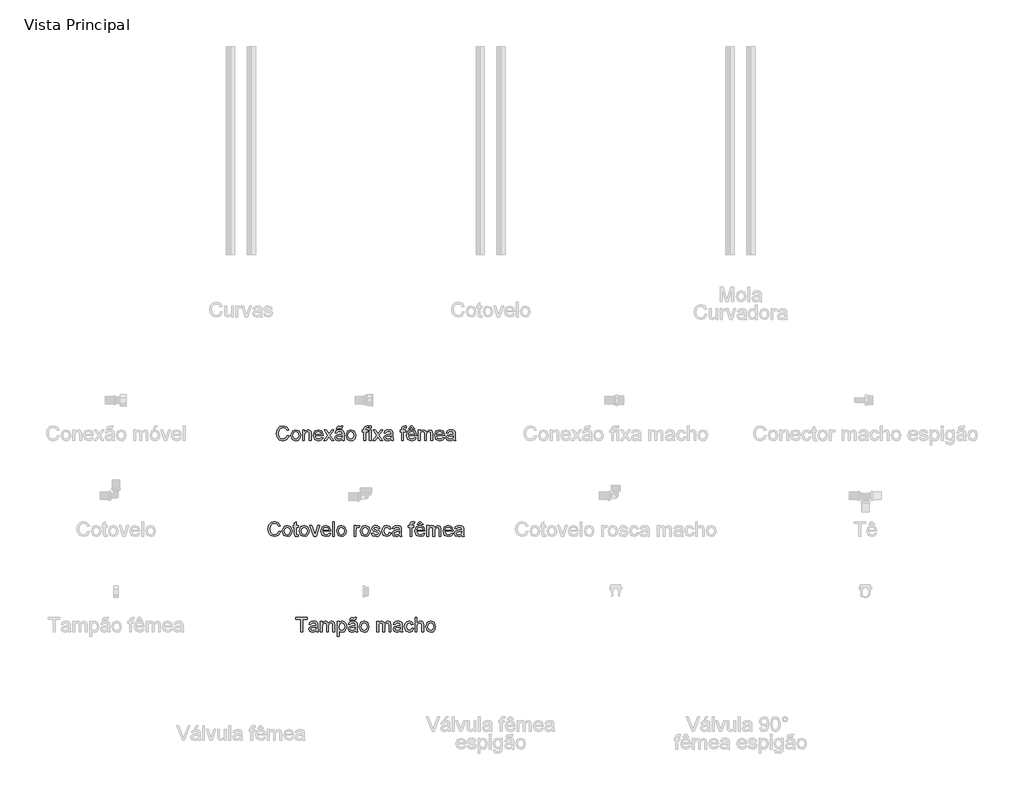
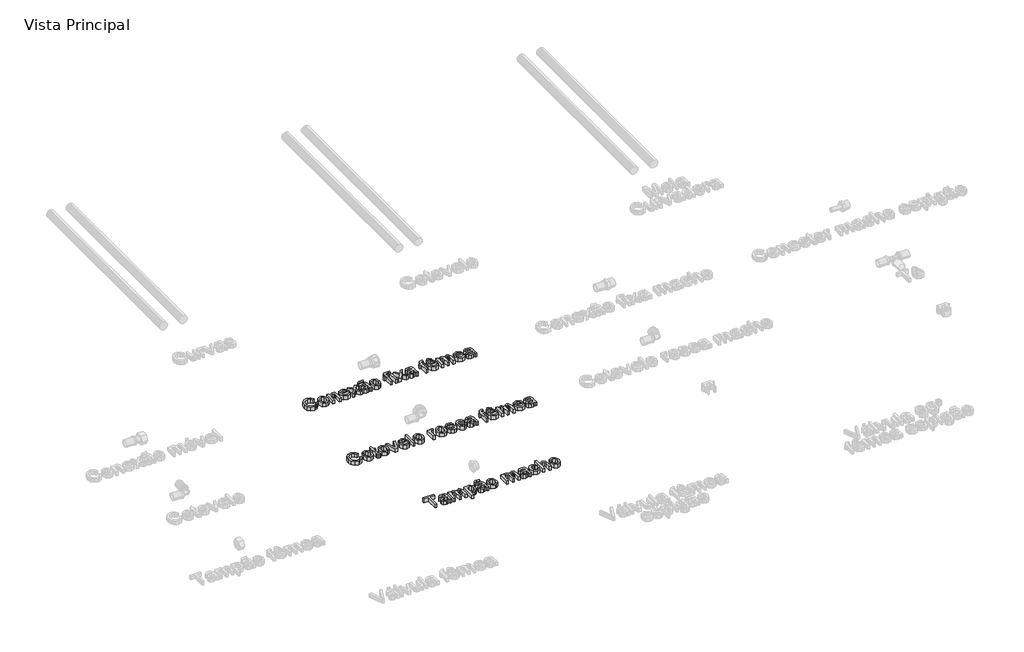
# One storey, part 2 of 5: 3 proxies.
"""IFC4 building model written with IfcOpenShell, lengths in millimetres."""

import ifcopenshell
import ifcopenshell.guid

model = None  # the IFC model being written
_history = None  # IfcOwnerHistory: only IFC2X3 demands one
_inside = {}  # id of a spatial element -> (the spatial element, [elements in it])
_under = {}  # id of a project, library or spatial element -> (it, [spatial elements below it])
_declared = {}  # id of a project -> (the project, [libraries it declares])
_typed = {}  # id of a type object -> (the type object, [elements of that type])
_made_of = {}  # id of a material, layer set ... -> (it, [elements and type objects made of it])


def new_model(schema):
    """Start an empty IFC model of exactly this schema.

    Asked for "IFC4X3", IfcOpenShell would pick the latest addendum, in which some entities
    have other attributes; the version numbers below select the first issue.
    IFC2X3 requires an IfcOwnerHistory on every rooted entity: one is made here for all.
    """
    global model, _history
    if schema == "IFC4X3":
        model = ifcopenshell.file(schema_version=(4, 3, 0, 0))
    else:
        model = ifcopenshell.file(schema=schema)
    _inside.clear()
    _under.clear()
    _declared.clear()
    _typed.clear()
    _made_of.clear()
    _history = None
    if model.schema == "IFC2X3":
        org = make("IfcOrganization", Name="unknown")
        user = make(
            "IfcPersonAndOrganization",
            ThePerson=make("IfcPerson", FamilyName="unknown"),
            TheOrganization=org,
        )
        app = make(
            "IfcApplication",
            ApplicationDeveloper=org,
            Version="unknown",
            ApplicationFullName="unknown",
            ApplicationIdentifier="unknown",
        )
        _history = make(
            "IfcOwnerHistory",
            OwningUser=user,
            OwningApplication=app,
            ChangeAction="ADDED",
            CreationDate=0,
        )
    return model


def make(cls, **values):
    """One entity of the class cls with the attributes given. An attribute that is None is left unset."""
    return model.create_entity(
        cls, **{name: value for name, value in values.items() if value is not None}
    )


def rooted(cls, **values):
    """An entity with a GlobalId (a new one), such as an element, a storey or a relation."""
    return make(cls, GlobalId=ifcopenshell.guid.new(), OwnerHistory=_history, **values)


def si_unit(unit_type, name, prefix=None):
    """IfcSIUnit, for example si_unit("LENGTHUNIT", "METRE", prefix="MILLI")."""
    return make("IfcSIUnit", UnitType=unit_type, Prefix=prefix, Name=name)


def assignment(units):
    """IfcUnitAssignment: the units of a project."""
    return None if units is None else make("IfcUnitAssignment", Units=units)


def point(xyz):
    """IfcCartesianPoint."""
    return None if xyz is None else make("IfcCartesianPoint", Coordinates=xyz)


def direction(xyz):
    """IfcDirection."""
    return None if xyz is None else make("IfcDirection", DirectionRatios=xyz)


def frame(location, z_axis=None, x_axis=None):
    """IfcAxis2Placement3D, a coordinate frame: its origin and axes. An axis left out is left unset."""
    return make(
        "IfcAxis2Placement3D",
        Location=point(location),
        Axis=direction(z_axis),
        RefDirection=direction(x_axis),
    )


def origin():
    """The frame at (0, 0, 0) with its axes left unset."""
    return frame((0.0, 0.0, 0.0))


def origin_with_axes():
    """The frame at (0, 0, 0) with the z axis (0, 0, 1) and the x axis (1, 0, 0) written out."""
    return frame((0.0, 0.0, 0.0), z_axis=(0.0, 0.0, 1.0), x_axis=(1.0, 0.0, 0.0))


def place(relative_to, where):
    """IfcLocalPlacement: puts the frame where relative to a parent placement (None: the world)."""
    return make(
        "IfcLocalPlacement", PlacementRelTo=relative_to, RelativePlacement=where
    )


def context(
    kind, dimensions, precision=None, world=None, true_north=None, identifier=None
):
    """IfcGeometricRepresentationContext, for example the 3D "Model" context."""
    return make(
        "IfcGeometricRepresentationContext",
        ContextIdentifier=identifier,
        ContextType=kind,
        CoordinateSpaceDimension=dimensions,
        Precision=precision,
        WorldCoordinateSystem=world,
        TrueNorth=true_north,
    )


def project(units=None, contexts=None):
    """IfcProject with its units and contexts."""
    return rooted(
        "IfcProject",
        Name="project",
        RepresentationContexts=contexts,
        UnitsInContext=assignment(units),
    )


def spatial(cls, under=None, at=None, **own):
    """A site, building, storey or space (cls), placed at a placement, below another one or the project."""
    s = rooted(cls, ObjectPlacement=at, **own)
    if under is not None:
        _under.setdefault(under.id(), (under, []))[1].append(s)
    return s


def polyline(points):
    """IfcPolyline through the points."""
    return make("IfcPolyline", Points=[point(p) for p in points])


def outline(outer, holes=None, kind="AREA"):
    """IfcArbitraryClosedProfileDef: a profile drawn as a closed curve; with holes, ...WithVoids."""
    if holes is None:
        return make("IfcArbitraryClosedProfileDef", ProfileType=kind, OuterCurve=outer)
    return make(
        "IfcArbitraryProfileDefWithVoids",
        ProfileType=kind,
        OuterCurve=outer,
        InnerCurves=holes,
    )


def extrude(swept, where, along, depth):
    """IfcExtrudedAreaSolid: the profile swept, set in the frame where, extruded along a direction by depth."""
    return make(
        "IfcExtrudedAreaSolid",
        SweptArea=swept,
        Position=where,
        ExtrudedDirection=direction(along),
        Depth=depth,
    )


def shape(context_of_items, identifier, shape_type, items):
    """IfcShapeRepresentation: the items that make up one representation, for example the "Body"."""
    return make(
        "IfcShapeRepresentation",
        ContextOfItems=context_of_items,
        RepresentationIdentifier=identifier,
        RepresentationType=shape_type,
        Items=items,
    )


def made_of(thing, what):
    """Note that an element or type object is made of a material, layer set ...; save() writes the relation."""
    if what is not None:
        _made_of.setdefault(what.id(), (what, []))[1].append(thing)
    return thing


def element(
    cls,
    number,
    at=None,
    inside=None,
    cuts=None,
    type_object=None,
    material=None,
    context=None,
    identifier="Body",
    shape_type=None,
    held_by="IfcProductDefinitionShape",
    body=None,
    shapes=None,
    **own,
):
    """One element of the class cls, such as IfcWall. Its Tag is "e" and its number.

    at: its placement. inside: the storey or other place that contains it. cuts: it is an
    opening in that element (IfcRelVoidsElement). A single representation is given by context,
    identifier, shape_type and body (its items); several are given by shapes. held_by: the class
    of the entity that holds the representations. save() writes the other relations.
    """
    e = rooted(cls, Tag="e%d" % number, ObjectPlacement=at, **own)
    if body is not None:
        shapes = [shape(context, identifier, shape_type, body)]
    if shapes is not None:
        e.Representation = make(held_by, Representations=shapes)
    if inside is not None:
        _inside.setdefault(inside.id(), (inside, []))[1].append(e)
    if cuts is not None:
        rooted(
            "IfcRelVoidsElement", RelatingBuildingElement=cuts, RelatedOpeningElement=e
        )
    if type_object is not None:
        _typed.setdefault(type_object.id(), (type_object, []))[1].append(e)
    return made_of(e, material)


def aggregate(whole, parts):
    """IfcRelAggregates: a whole, such as a stair, and the parts it consists of."""
    return rooted("IfcRelAggregates", RelatingObject=whole, RelatedObjects=parts)


def save(model, path):
    """Write the relations noted so far, then the file.

    IfcRelAggregates (storeys below a building ...), IfcRelContainedInSpatialStructure (elements
    in a storey), IfcRelDefinesByType, IfcRelAssociatesMaterial and IfcRelDeclares: one each for
    every whole, place, type object, material and project.
    """
    for whole, parts in _under.values():
        aggregate(whole, parts)
    for where, things in _inside.values():
        rooted(
            "IfcRelContainedInSpatialStructure",
            RelatedElements=things,
            RelatingStructure=where,
        )
    for kind, things in _typed.values():
        rooted("IfcRelDefinesByType", RelatedObjects=things, RelatingType=kind)
    for what, things in _made_of.values():
        rooted("IfcRelAssociatesMaterial", RelatedObjects=things, RelatingMaterial=what)
    for by, libraries in _declared.values():
        rooted("IfcRelDeclares", RelatingContext=by, RelatedDefinitions=libraries)
    model.write(path)


model = new_model("IFC4")

# Units and contexts
model_context = context("Model", 3, world=origin())
ifc_project = project(units=[si_unit("LENGTHUNIT", "METRE", prefix="MILLI")], contexts=[model_context])

# Site, building, storey
site = spatial("IfcSite", under=ifc_project)
building = spatial("IfcBuilding", under=site)
storey = spatial("IfcBuildingStorey", under=building, Name="Vista Principal", Elevation=0.0)

# Proxies
placement = place(None, origin())
element("IfcBuildingElementProxy", 1, Name="Texto", ObjectType="Texto", at=placement, inside=storey, context=model_context, shape_type="SweptSolid", body=[
    extrude(outline(polyline([(-680.3568001, -120.9709901), (-675.9618365, -122.1040666), (-681.1722718, -130.966957), (-690.3742268, -134.0185382), (-699.5203864, -131.7094655), (-704.8853321, -125.0225971), (-706.7265815, -115.6232122), (-704.6449825, -106.0693168), (-698.7263744, -99.8760234), (-690.2798038, -97.7600888), (-681.4770008, -100.4983571), (-676.511207, -108.2067111), (-680.9061705, -109.2539486), (-684.5114141, -103.8503752), (-690.451482, -102.1550523), (-697.3271965, -104.0349293), (-701.2114173, -109.0822703), (-702.3316179, -115.6146283), (-701.0054033, -123.1856397), (-696.8765411, -128.0226748), (-690.8120064, -129.6235746), (-684.0865104, -127.4432607), (-680.3568001, -120.9709901)])), origin_with_axes(), (0.0, 0.0, 1.0), 10.0),
    extrude(outline(polyline([(-671.5668729, -120.5589623), (-667.7641994, -109.9578294), (-660.0215097, -107.0993863), (-651.7165736, -110.5801632), (-648.4933142, -120.1984379), (-649.9182438, -128.0183829), (-654.0685658, -132.4433901), (-660.0215097, -134.0185382), (-668.3779492, -130.5506373), (-671.5668729, -120.5589623)]), holes=[polyline([(-667.1719094, -120.5503784), (-665.1375219, -127.3617135), (-660.0215097, -129.6235746), (-654.9226652, -127.3488376), (-652.8882778, -120.4130357), (-654.9355411, -113.756211), (-660.0215097, -111.4943499), (-665.1375219, -113.7476271), (-667.1719094, -120.5503784)])]), origin_with_axes(), (0.0, 0.0, 1.0), 10.0),
    extrude(outline(polyline([(-643.5489802, -133.4691678), (-643.5489802, -107.6487568), (-639.1540166, -107.6487568), (-639.1540166, -111.2540003), (-631.205313, -107.0993863), (-627.0549909, -107.9363179), (-624.2222996, -110.1337997), (-622.9046689, -113.365643), (-622.6729032, -117.61468), (-622.6729032, -133.4691678), (-627.0678668, -133.4691678), (-627.0678668, -118.20697), (-627.5743177, -114.3184574), (-629.3640636, -112.2626101), (-632.3813091, -111.4943499), (-637.1496729, -113.2197165), (-639.1540166, -119.7692423), (-639.1540166, -133.4691678), (-643.5489802, -133.4691678)])), origin_with_axes(), (0.0, 0.0, 1.0), 10.0),
    extrude(outline(polyline([(-598.5521071, -125.7779815), (-594.2429827, -126.327352), (-598.2731299, -132.0013186), (-605.779762, -134.0185382), (-614.9044618, -130.5377614), (-618.2779397, -120.7735601), (-614.8701261, -110.6874621), (-606.0286955, -107.0993863), (-597.4404903, -110.6788782), (-594.10564, -120.7478084), (-613.8829761, -121.9323884), (-611.3550137, -127.6406907), (-605.6939229, -129.6235746), (-601.3847985, -128.7050959), (-598.5521071, -125.7779815)]), holes=[polyline([(-613.8829761, -117.5374248), (-598.5006036, -117.5374248), (-600.2603058, -113.5544891), (-606.0458633, -111.4943499), (-611.4580206, -113.1381693), (-613.8829761, -117.5374248)])]), origin_with_axes(), (0.0, 0.0, 1.0), 10.0),
    extrude(outline(polyline([(-592.4575287, -133.4691678), (-583.0667276, -120.490291), (-591.9081583, -107.6487568), (-586.6204677, -107.6487568), (-582.3542628, -113.8291743), (-580.362795, -116.7477048), (-578.6374284, -114.3613769), (-573.7789335, -107.6487568), (-568.491243, -107.6487568), (-577.7790371, -120.490291), (-568.8345995, -133.4691678), (-574.1222901, -133.4691678), (-579.5044037, -125.6663906), (-580.4915537, -124.241461), (-587.1698382, -133.4691678), (-592.4575287, -133.4691678)])), origin_with_axes(), (0.0, 0.0, 1.0), 10.0),
    extrude(outline(polyline([(-548.507893, -130.1729451), (-552.7698059, -133.151563), (-557.4780823, -134.0185382), (-563.8602218, -131.9326473), (-566.0877473, -126.6020372), (-565.2465238, -123.1255523), (-563.0361661, -120.6018818), (-559.9588333, -119.1597844), (-556.1561597, -118.4988231), (-548.5336448, -116.9880544), (-549.7182248, -112.7647691), (-554.5767197, -111.4943499), (-559.0231867, -112.3398654), (-561.1434133, -115.339943), (-565.5383768, -114.7905726), (-563.6370401, -110.498616), (-559.8086148, -107.9835294), (-554.0101814, -107.0993863), (-548.6838632, -107.8805224), (-545.6752017, -109.8419466), (-544.3275273, -112.8248565), (-544.1129294, -116.6704496), (-544.1129294, -122.1384023), (-543.8897477, -129.7737931), (-543.0141886, -133.4691678), (-547.4091521, -133.4691678), (-548.507893, -130.1729451)]), holes=[polyline([(-548.5207689, -122.0053516), (-555.5982053, -122.7306923), (-559.3794191, -123.4431571), (-561.0919098, -124.6019854), (-561.6927837, -126.2930163), (-560.383737, -128.6707603), (-556.5424358, -129.6235746), (-552.0959687, -128.5720453), (-549.2289417, -126.026915), (-548.5207689, -122.0053516)])]), origin_with_axes(), (0.0, 0.0, 1.0), 10.0),
    extrude(outline(polyline([(-562.2421542, -104.9019046), (-560.877312, -100.1034971), (-557.3836593, -98.3094592), (-553.8642549, -99.7258049), (-552.0873848, -100.506941), (-550.7053748, -98.3094592), (-546.8597817, -98.3094592), (-548.2546676, -103.2537932), (-551.6238535, -104.9019046), (-555.1003384, -103.5628141), (-556.9544636, -102.7044228), (-558.396561, -104.9019046), (-562.2421542, -104.9019046)])), origin_with_axes(), (0.0, 0.0, 1.0), 10.0),
    extrude(outline(polyline([(-539.1685954, -120.5589623), (-535.3659219, -109.9578294), (-527.6232322, -107.0993863), (-519.3182961, -110.5801632), (-516.0950367, -120.1984379), (-517.5199663, -128.0183829), (-521.6702883, -132.4433901), (-527.6232322, -134.0185382), (-535.9796717, -130.5506373), (-539.1685954, -120.5589623)]), holes=[polyline([(-534.7736319, -120.5503784), (-532.7392444, -127.3617135), (-527.6232322, -129.6235746), (-522.5243877, -127.3488376), (-520.4900003, -120.4130357), (-522.5372636, -113.756211), (-527.6232322, -111.4943499), (-532.7392444, -113.7476271), (-534.7736319, -120.5503784)])]), origin_with_axes(), (0.0, 0.0, 1.0), 10.0),
    extrude(outline(polyline([(-496.3177006, -133.4691678), (-496.3177006, -112.0437204), (-500.1632938, -112.0437204), (-500.1632938, -107.6487568), (-496.3177006, -107.6487568), (-496.3177006, -105.0478311), (-495.8541693, -101.3825001), (-493.6051841, -98.7644066), (-489.1758848, -97.7600888), (-485.1671974, -98.2407879), (-485.8109909, -102.3610662), (-488.3432453, -102.1550523), (-491.1115573, -102.8846849), (-491.9227371, -105.6057854), (-491.9227371, -107.6487568), (-486.978403, -107.6487568), (-486.978403, -112.0437204), (-491.9227371, -112.0437204), (-491.9227371, -133.4691678), (-496.3177006, -133.4691678)])), origin_with_axes(), (0.0, 0.0, 1.0), 10.0),
    extrude(outline(polyline([(-483.1328099, -102.7044228), (-483.1328099, -98.3094592), (-478.7378464, -98.3094592), (-478.7378464, -102.7044228), (-483.1328099, -102.7044228)])), origin_with_axes(), (0.0, 0.0, 1.0), 10.0),
    extrude(outline(polyline([(-483.1328099, -133.4691678), (-483.1328099, -107.6487568), (-478.7378464, -107.6487568), (-478.7378464, -133.4691678), (-483.1328099, -133.4691678)])), origin_with_axes(), (0.0, 0.0, 1.0), 10.0),
    extrude(outline(polyline([(-474.8922532, -133.4691678), (-465.5014522, -120.490291), (-474.3428828, -107.6487568), (-469.0551922, -107.6487568), (-464.7889874, -113.8291743), (-462.7975195, -116.7477048), (-461.0721529, -114.3613769), (-456.2136581, -107.6487568), (-450.9259675, -107.6487568), (-460.2137616, -120.490291), (-451.2693241, -133.4691678), (-456.5570146, -133.4691678), (-461.9391282, -125.6663906), (-462.9262782, -124.241461), (-469.6045627, -133.4691678), (-474.8922532, -133.4691678)])), origin_with_axes(), (0.0, 0.0, 1.0), 10.0),
    extrude(outline(polyline([(-430.9426175, -130.1729451), (-435.2045305, -133.151563), (-439.9128069, -134.0185382), (-446.2949463, -131.9326473), (-448.5224718, -126.6020372), (-447.6812483, -123.1255523), (-445.4708907, -120.6018818), (-442.3935578, -119.1597844), (-438.5908842, -118.4988231), (-430.9683693, -116.9880544), (-432.1529493, -112.7647691), (-437.0114442, -111.4943499), (-441.4579112, -112.3398654), (-443.5781378, -115.339943), (-447.9731014, -114.7905726), (-446.0717646, -110.498616), (-442.2433393, -107.9835294), (-436.4449059, -107.0993863), (-431.1185878, -107.8805224), (-428.1099262, -109.8419466), (-426.7622518, -112.8248565), (-426.547654, -116.6704496), (-426.547654, -122.1384023), (-426.3244722, -129.7737931), (-425.4489131, -133.4691678), (-429.8438767, -133.4691678), (-430.9426175, -130.1729451)]), holes=[polyline([(-430.9554934, -122.0053516), (-438.0329299, -122.7306923), (-441.8141436, -123.4431571), (-443.5266343, -124.6019854), (-444.1275083, -126.2930163), (-442.8184615, -128.6707603), (-438.9771603, -129.6235746), (-434.5306933, -128.5720453), (-431.6636663, -126.026915), (-430.9554934, -122.0053516)])]), origin_with_axes(), (0.0, 0.0, 1.0), 10.0),
    extrude(outline(polyline([(-405.671577, -133.4691678), (-405.671577, -112.0437204), (-409.5171701, -112.0437204), (-409.5171701, -107.6487568), (-405.671577, -107.6487568), (-405.671577, -105.0478311), (-405.2080457, -101.3825001), (-402.9590604, -98.7644066), (-398.5297612, -97.7600888), (-394.5210737, -98.2407879), (-395.1648672, -102.3610662), (-397.6971216, -102.1550523), (-400.4654337, -102.8846849), (-401.2766135, -105.6057854), (-401.2766135, -107.6487568), (-396.3322794, -107.6487568), (-396.3322794, -112.0437204), (-401.2766135, -112.0437204), (-401.2766135, -133.4691678), (-405.671577, -133.4691678)])), origin_with_axes(), (0.0, 0.0, 1.0), 10.0),
    extrude(outline(polyline([(-374.4089651, -125.7779815), (-370.0998406, -126.327352), (-374.1299879, -132.0013186), (-381.63662, -134.0185382), (-390.7613198, -130.5377614), (-394.1347977, -120.7735601), (-390.7269841, -110.6874621), (-381.8855535, -107.0993863), (-373.2973483, -110.6788782), (-369.962498, -120.7478084), (-389.7398341, -121.9323884), (-387.2118716, -127.6406907), (-381.5507809, -129.6235746), (-377.2416564, -128.7050959), (-374.4089651, -125.7779815)]), holes=[polyline([(-389.7398341, -117.5374248), (-374.3574616, -117.5374248), (-376.1171638, -113.5544891), (-381.9027213, -111.4943499), (-387.3148786, -113.1381693), (-389.7398341, -117.5374248)])]), origin_with_axes(), (0.0, 0.0, 1.0), 10.0),
    extrude(outline(polyline([(-382.0486478, -100.506941), (-384.5208148, -104.9019046), (-388.9157784, -104.9019046), (-384.2461296, -98.3094592), (-379.8511661, -98.3094592), (-374.6321468, -104.9019046), (-379.0271104, -104.9019046), (-382.0486478, -100.506941)])), origin_with_axes(), (0.0, 0.0, 1.0), 10.0),
    extrude(outline(polyline([(-365.5675345, -133.4691678), (-365.5675345, -107.6487568), (-361.1725709, -107.6487568), (-361.1725709, -111.8977938), (-358.1510334, -108.417017), (-353.8504929, -107.0993863), (-349.4469454, -108.4427688), (-347.0262819, -112.2068147), (-339.2664243, -107.0993863), (-333.5194944, -109.2239049), (-331.5065668, -115.7691387), (-331.5065668, -133.4691678), (-335.9015304, -133.4691678), (-335.9015304, -117.6575996), (-336.3092662, -113.9879767), (-337.7856993, -112.181063), (-340.2964939, -111.4943499), (-344.6184942, -113.2540521), (-346.3395688, -118.8936831), (-346.3395688, -133.4691678), (-350.7345324, -133.4691678), (-350.7345324, -117.1683165), (-351.7517261, -112.9106956), (-355.0865764, -111.4943499), (-358.3398795, -112.4385804), (-360.5030257, -115.2026004), (-361.1725709, -120.4473714), (-361.1725709, -133.4691678), (-365.5675345, -133.4691678)])), origin_with_axes(), (0.0, 0.0, 1.0), 10.0),
    extrude(outline(polyline([(-306.8364002, -125.7779815), (-302.5272758, -126.327352), (-306.557423, -132.0013186), (-314.0640551, -134.0185382), (-323.1887549, -130.5377614), (-326.5622328, -120.7735601), (-323.1544192, -110.6874621), (-314.3129886, -107.0993863), (-305.7247834, -110.6788782), (-302.3899331, -120.7478084), (-322.1672692, -121.9323884), (-319.6393068, -127.6406907), (-313.978216, -129.6235746), (-309.6690916, -128.7050959), (-306.8364002, -125.7779815)]), holes=[polyline([(-322.1672692, -117.5374248), (-306.7848967, -117.5374248), (-308.5445989, -113.5544891), (-314.3301564, -111.4943499), (-319.7423137, -113.1381693), (-322.1672692, -117.5374248)])]), origin_with_axes(), (0.0, 0.0, 1.0), 10.0),
    extrude(outline(polyline([(-281.5138562, -130.1729451), (-285.7757691, -133.151563), (-290.4840455, -134.0185382), (-296.866185, -131.9326473), (-299.0937105, -126.6020372), (-298.252487, -123.1255523), (-296.0421293, -120.6018818), (-292.9647964, -119.1597844), (-289.1621229, -118.4988231), (-281.5396079, -116.9880544), (-282.724188, -112.7647691), (-287.5826828, -111.4943499), (-292.0291499, -112.3398654), (-294.1493765, -115.339943), (-298.54434, -114.7905726), (-296.6430032, -110.498616), (-292.814578, -107.9835294), (-287.0161446, -107.0993863), (-281.6898264, -107.8805224), (-278.6811648, -109.8419466), (-277.3334905, -112.8248565), (-277.1188926, -116.6704496), (-277.1188926, -122.1384023), (-276.8957109, -129.7737931), (-276.0201517, -133.4691678), (-280.4151153, -133.4691678), (-281.5138562, -130.1729451)]), holes=[polyline([(-281.5267321, -122.0053516), (-288.6041685, -122.7306923), (-292.3853823, -123.4431571), (-294.097873, -124.6019854), (-294.6987469, -126.2930163), (-293.3897001, -128.6707603), (-289.548399, -129.6235746), (-285.1019319, -128.5720453), (-282.2349049, -126.026915), (-281.5267321, -122.0053516)])]), origin_with_axes(), (0.0, 0.0, 1.0), 10.0),
])
element("IfcBuildingElementProxy", 2, Name="Texto", ObjectType="Texto", at=placement, inside=storey, context=model_context, shape_type="SweptSolid", body=[
    extrude(outline(polyline([(-700.6835066, -350.9709901), (-696.288543, -352.1040666), (-701.4989784, -360.966957), (-710.7009333, -364.0185382), (-719.8470929, -361.7094655), (-725.2120386, -355.0225971), (-727.053288, -345.6232122), (-724.9716891, -336.0693168), (-719.0530809, -329.8760234), (-710.6065103, -327.7600888), (-701.8037073, -330.4983571), (-696.8379135, -338.2067111), (-701.232877, -339.2539486), (-704.8381206, -333.8503752), (-710.7781885, -332.1550523), (-717.653903, -334.0349293), (-721.5381238, -339.0822703), (-722.6583244, -345.6146283), (-721.3321098, -353.1856397), (-717.2032476, -358.0226748), (-711.1387129, -359.6235746), (-704.4132169, -357.4432607), (-700.6835066, -350.9709901)])), origin_with_axes(), (0.0, 0.0, 1.0), 10.0),
    extrude(outline(polyline([(-691.8935795, -350.5589623), (-688.0909059, -339.9578294), (-680.3482162, -337.0993863), (-672.0432801, -340.5801632), (-668.8200207, -350.1984379), (-670.2449503, -358.0183829), (-674.3952724, -362.4433901), (-680.3482162, -364.0185382), (-688.7046557, -360.5506373), (-691.8935795, -350.5589623)]), holes=[polyline([(-687.4986159, -350.5503784), (-685.4642285, -357.3617135), (-680.3482162, -359.6235746), (-675.2493717, -357.3488376), (-673.2149843, -350.4130357), (-675.2622476, -343.756211), (-680.3482162, -341.4943499), (-685.4642285, -343.7476271), (-687.4986159, -350.5503784)])]), origin_with_axes(), (0.0, 0.0, 1.0), 10.0),
    extrude(outline(polyline([(-654.5363891, -359.8038368), (-653.9870187, -363.5979265), (-657.2746574, -364.0185382), (-660.9571562, -363.2889056), (-662.7941136, -361.3746929), (-663.3263163, -356.3874393), (-663.3263163, -342.0437204), (-666.6225389, -342.0437204), (-666.6225389, -337.6487568), (-663.3263163, -337.6487568), (-663.3263163, -331.3739162), (-658.9313527, -328.7901583), (-658.9313527, -337.6487568), (-654.5363891, -337.6487568), (-654.5363891, -342.0437204), (-658.9313527, -342.0437204), (-658.9313527, -356.2586806), (-658.699587, -358.5248337), (-654.5363891, -359.8038368)])), origin_with_axes(), (0.0, 0.0, 1.0), 10.0),
    extrude(outline(polyline([(-651.2401664, -350.5589623), (-647.4374929, -339.9578294), (-639.6948032, -337.0993863), (-631.3898671, -340.5801632), (-628.1666077, -350.1984379), (-629.5915373, -358.0183829), (-633.7418593, -362.4433901), (-639.6948032, -364.0185382), (-648.0512427, -360.5506373), (-651.2401664, -350.5589623)]), holes=[polyline([(-646.8452029, -350.5503784), (-644.8108154, -357.3617135), (-639.6948032, -359.6235746), (-634.5959587, -357.3488376), (-632.5615713, -350.4130357), (-634.6088346, -343.756211), (-639.6948032, -341.4943499), (-644.8108154, -343.7476271), (-646.8452029, -350.5503784)])]), origin_with_axes(), (0.0, 0.0, 1.0), 10.0),
    extrude(outline(polyline([(-616.8873457, -363.4691678), (-625.9691259, -337.6487568), (-621.316645, -337.6487568), (-615.8143566, -353.1169684), (-614.1576613, -358.3188198), (-612.5353017, -353.4088215), (-606.9986777, -337.6487568), (-602.3461967, -337.6487568), (-611.3163861, -363.4691678), (-616.8873457, -363.4691678)])), origin_with_axes(), (0.0, 0.0, 1.0), 10.0),
    extrude(outline(polyline([(-580.4228824, -355.7779815), (-576.1137579, -356.327352), (-580.1439052, -362.0013186), (-587.6505373, -364.0185382), (-596.7752371, -360.5377614), (-600.148715, -350.7735601), (-596.7409014, -340.6874621), (-587.8994708, -337.0993863), (-579.3112656, -340.6788782), (-575.9764153, -350.7478084), (-595.7537514, -351.9323884), (-593.2257889, -357.6406907), (-587.5646982, -359.6235746), (-583.2555737, -358.7050959), (-580.4228824, -355.7779815)]), holes=[polyline([(-595.7537514, -347.5374248), (-580.3713789, -347.5374248), (-582.1310811, -343.5544891), (-587.9166386, -341.4943499), (-593.3287959, -343.1381693), (-595.7537514, -347.5374248)])]), origin_with_axes(), (0.0, 0.0, 1.0), 10.0),
    extrude(outline(polyline([(-571.5814518, -363.4691678), (-571.5814518, -328.3094592), (-567.1864882, -328.3094592), (-567.1864882, -363.4691678), (-571.5814518, -363.4691678)])), origin_with_axes(), (0.0, 0.0, 1.0), 10.0),
    extrude(outline(polyline([(-561.6927837, -350.5589623), (-557.8901102, -339.9578294), (-550.1474204, -337.0993863), (-541.8424844, -340.5801632), (-538.619225, -350.1984379), (-540.0441546, -358.0183829), (-544.1944766, -362.4433901), (-550.1474204, -364.0185382), (-558.50386, -360.5506373), (-561.6927837, -350.5589623)]), holes=[polyline([(-557.2978202, -350.5503784), (-555.2634327, -357.3617135), (-550.1474204, -359.6235746), (-545.048576, -357.3488376), (-543.0141886, -350.4130357), (-545.0614519, -343.756211), (-550.1474204, -341.4943499), (-555.2634327, -343.7476271), (-557.2978202, -350.5503784)])]), origin_with_axes(), (0.0, 0.0, 1.0), 10.0),
    extrude(outline(polyline([(-519.9406298, -363.4691678), (-519.9406298, -337.6487568), (-516.0950367, -337.6487568), (-516.0950367, -341.4685982), (-513.3653523, -337.9491937), (-510.6185001, -337.0993863), (-506.2063687, -338.4556446), (-507.6742178, -342.3956608), (-510.7644266, -341.4943499), (-513.2494695, -342.3613251), (-514.8332015, -344.7648208), (-515.5456662, -349.898001), (-515.5456662, -363.4691678), (-519.9406298, -363.4691678)])), origin_with_axes(), (0.0, 0.0, 1.0), 10.0),
    extrude(outline(polyline([(-504.5582573, -350.5589623), (-500.7555838, -339.9578294), (-493.012894, -337.0993863), (-484.707958, -340.5801632), (-481.4846986, -350.1984379), (-482.9096282, -358.0183829), (-487.0599502, -362.4433901), (-493.012894, -364.0185382), (-501.3693336, -360.5506373), (-504.5582573, -350.5589623)]), holes=[polyline([(-500.1632938, -350.5503784), (-498.1289063, -357.3617135), (-493.012894, -359.6235746), (-487.9140496, -357.3488376), (-485.8796622, -350.4130357), (-487.9269255, -343.756211), (-493.012894, -341.4943499), (-498.1289063, -343.7476271), (-500.1632938, -350.5503784)])]), origin_with_axes(), (0.0, 0.0, 1.0), 10.0),
    extrude(outline(polyline([(-478.1884759, -355.7779815), (-473.7935123, -355.2286111), (-471.7591249, -358.4904981), (-467.09806, -359.6235746), (-462.6172573, -358.5849211), (-461.1579921, -356.1470898), (-462.6258412, -354.1727897), (-467.1495635, -352.9195384), (-473.7677606, -350.7692681), (-476.6562474, -348.2584735), (-477.6391055, -344.7133174), (-476.8493854, -341.4385545), (-474.6948232, -338.9363438), (-471.9007595, -337.6358809), (-468.1195457, -337.0993863), (-462.7717678, -337.9620696), (-459.3725381, -340.296894), (-457.8617694, -344.2412021), (-462.256733, -344.7905726), (-463.9091363, -342.3656171), (-467.7761892, -341.4943499), (-471.9823067, -342.3269895), (-473.2441419, -344.2669539), (-471.0809958, -346.5159391), (-467.29549, -347.4515857), (-460.8446792, -349.5203088), (-457.8488935, -351.8637171), (-456.7630285, -355.6835585), (-458.0377396, -359.8896759), (-461.7159464, -362.9412571), (-467.1581474, -364.0185382), (-474.8235819, -361.9412312), (-478.1884759, -355.7779815)])), origin_with_axes(), (0.0, 0.0, 1.0), 10.0),
    extrude(outline(polyline([(-435.3375811, -354.1298702), (-430.9426175, -354.6792406), (-434.4706059, -361.5420792), (-441.4407434, -364.0185382), (-449.7714312, -360.5635131), (-452.9174354, -350.6533853), (-451.574053, -343.3527671), (-447.4795264, -338.6616585), (-441.5008308, -337.0993863), (-434.8182544, -339.2453646), (-431.491988, -345.339943), (-435.8869516, -345.8893135), (-437.9256309, -342.5973828), (-441.4664952, -341.4943499), (-446.5610476, -343.66608), (-448.5224718, -350.5332105), (-446.6039672, -357.4647205), (-441.5866699, -359.6235746), (-437.4449318, -358.2759003), (-435.3375811, -354.1298702)])), origin_with_axes(), (0.0, 0.0, 1.0), 10.0),
    extrude(outline(polyline([(-410.615911, -360.1729451), (-414.877824, -363.151563), (-419.5861004, -364.0185382), (-425.9682398, -361.9326473), (-428.1957653, -356.6020372), (-427.3545418, -353.1255523), (-425.1441842, -350.6018818), (-422.0668513, -349.1597844), (-418.2641777, -348.4988231), (-410.6416628, -346.9880544), (-411.8262428, -342.7647691), (-416.6847377, -341.4943499), (-421.1312047, -342.3398654), (-423.2514313, -345.339943), (-427.6463949, -344.7905726), (-425.7450581, -340.498616), (-421.9166328, -337.9835294), (-416.1181994, -337.0993863), (-410.7918813, -337.8805224), (-407.7832197, -339.8419466), (-406.4355453, -342.8248565), (-406.2209475, -346.6704496), (-406.2209475, -352.1384023), (-405.9977657, -359.7737931), (-405.1222066, -363.4691678), (-409.5171701, -363.4691678), (-410.615911, -360.1729451)]), holes=[polyline([(-410.6287869, -352.0053516), (-417.7062234, -352.7306923), (-421.4874371, -353.4431571), (-423.1999278, -354.6019854), (-423.8008017, -356.2930163), (-422.491755, -358.6707603), (-418.6504538, -359.6235746), (-414.2039868, -358.5720453), (-411.3369597, -356.026915), (-410.6287869, -352.0053516)])]), origin_with_axes(), (0.0, 0.0, 1.0), 10.0),
    extrude(outline(polyline([(-385.3448705, -363.4691678), (-385.3448705, -342.0437204), (-389.1904636, -342.0437204), (-389.1904636, -337.6487568), (-385.3448705, -337.6487568), (-385.3448705, -335.0478311), (-384.8813392, -331.3825001), (-382.6323539, -328.7644066), (-378.2030547, -327.7600888), (-374.1943672, -328.2407879), (-374.8381607, -332.3610662), (-377.3704151, -332.1550523), (-380.1387271, -332.8846849), (-380.9499069, -335.6057854), (-380.9499069, -337.6487568), (-376.0055729, -337.6487568), (-376.0055729, -342.0437204), (-380.9499069, -342.0437204), (-380.9499069, -363.4691678), (-385.3448705, -363.4691678)])), origin_with_axes(), (0.0, 0.0, 1.0), 10.0),
    extrude(outline(polyline([(-354.0822586, -355.7779815), (-349.7731341, -356.327352), (-353.8032814, -362.0013186), (-361.3099135, -364.0185382), (-370.4346133, -360.5377614), (-373.8080911, -350.7735601), (-370.4002776, -340.6874621), (-361.558847, -337.0993863), (-352.9706418, -340.6788782), (-349.6357915, -350.7478084), (-369.4131276, -351.9323884), (-366.8851651, -357.6406907), (-361.2240744, -359.6235746), (-356.9149499, -358.7050959), (-354.0822586, -355.7779815)]), holes=[polyline([(-369.4131276, -347.5374248), (-354.0307551, -347.5374248), (-355.7904573, -343.5544891), (-361.5760148, -341.4943499), (-366.9881721, -343.1381693), (-369.4131276, -347.5374248)])]), origin_with_axes(), (0.0, 0.0, 1.0), 10.0),
    extrude(outline(polyline([(-361.7219413, -330.506941), (-364.1941083, -334.9019046), (-368.5890719, -334.9019046), (-363.9194231, -328.3094592), (-359.5244595, -328.3094592), (-354.3054403, -334.9019046), (-358.7004039, -334.9019046), (-361.7219413, -330.506941)])), origin_with_axes(), (0.0, 0.0, 1.0), 10.0),
    extrude(outline(polyline([(-345.2408279, -363.4691678), (-345.2408279, -337.6487568), (-340.8458644, -337.6487568), (-340.8458644, -341.8977938), (-337.8243269, -338.417017), (-333.5237864, -337.0993863), (-329.1202389, -338.4427688), (-326.6995754, -342.2068147), (-318.9397178, -337.0993863), (-313.1927879, -339.2239049), (-311.1798603, -345.7691387), (-311.1798603, -363.4691678), (-315.5748239, -363.4691678), (-315.5748239, -347.6575996), (-315.9825597, -343.9879767), (-317.4589928, -342.181063), (-319.9697874, -341.4943499), (-324.2917877, -343.2540521), (-326.0128623, -348.8936831), (-326.0128623, -363.4691678), (-330.4078259, -363.4691678), (-330.4078259, -347.1683165), (-331.4250196, -342.9106956), (-334.7598699, -341.4943499), (-338.013173, -342.4385804), (-340.1763191, -345.2026004), (-340.8458644, -350.4473714), (-340.8458644, -363.4691678), (-345.2408279, -363.4691678)])), origin_with_axes(), (0.0, 0.0, 1.0), 10.0),
    extrude(outline(polyline([(-286.5096937, -355.7779815), (-282.2005693, -356.327352), (-286.2307165, -362.0013186), (-293.7373486, -364.0185382), (-302.8620484, -360.5377614), (-306.2355263, -350.7735601), (-302.8277127, -340.6874621), (-293.9862821, -337.0993863), (-285.3980769, -340.6788782), (-282.0632266, -350.7478084), (-301.8405627, -351.9323884), (-299.3126003, -357.6406907), (-293.6515095, -359.6235746), (-289.3423851, -358.7050959), (-286.5096937, -355.7779815)]), holes=[polyline([(-301.8405627, -347.5374248), (-286.4581902, -347.5374248), (-288.2178924, -343.5544891), (-294.0034499, -341.4943499), (-299.4156072, -343.1381693), (-301.8405627, -347.5374248)])]), origin_with_axes(), (0.0, 0.0, 1.0), 10.0),
    extrude(outline(polyline([(-261.1871497, -360.1729451), (-265.4490626, -363.151563), (-270.157339, -364.0185382), (-276.5394785, -361.9326473), (-278.767004, -356.6020372), (-277.9257805, -353.1255523), (-275.7154228, -350.6018818), (-272.6380899, -349.1597844), (-268.8354164, -348.4988231), (-261.2129014, -346.9880544), (-262.3974815, -342.7647691), (-267.2559763, -341.4943499), (-271.7024434, -342.3398654), (-273.82267, -345.339943), (-278.2176335, -344.7905726), (-276.3162967, -340.498616), (-272.4878714, -337.9835294), (-266.6894381, -337.0993863), (-261.3631199, -337.8805224), (-258.3544583, -339.8419466), (-257.006784, -342.8248565), (-256.7921861, -346.6704496), (-256.7921861, -352.1384023), (-256.5690044, -359.7737931), (-255.6934452, -363.4691678), (-260.0884088, -363.4691678), (-261.1871497, -360.1729451)]), holes=[polyline([(-261.2000256, -352.0053516), (-268.277462, -352.7306923), (-272.0586758, -353.4431571), (-273.7711665, -354.6019854), (-274.3720404, -356.2930163), (-273.0629936, -358.6707603), (-269.2216925, -359.6235746), (-264.7752254, -358.5720453), (-261.9081984, -356.026915), (-261.2000256, -352.0053516)])]), origin_with_axes(), (0.0, 0.0, 1.0), 10.0),
])
element("IfcBuildingElementProxy", 3, Name="Texto", ObjectType="Texto", at=placement, inside=storey, context=model_context, shape_type="SweptSolid", body=[
    extrude(outline(polyline([(-647.9439438, -593.4691678), (-647.9439438, -562.7044228), (-659.4807231, -562.7044228), (-659.4807231, -558.3094592), (-632.0122008, -558.3094592), (-632.0122008, -562.7044228), (-643.5489802, -562.7044228), (-643.5489802, -593.4691678), (-647.9439438, -593.4691678)])), origin_with_axes(), (0.0, 0.0, 1.0), 10.0),
    extrude(outline(polyline([(-611.1361239, -590.1729451), (-615.3980368, -593.151563), (-620.1063132, -594.0185382), (-626.4884527, -591.9326473), (-628.7159782, -586.6020372), (-627.8747547, -583.1255523), (-625.664397, -580.6018818), (-622.5870641, -579.1597844), (-618.7843906, -578.4988231), (-611.1618756, -576.9880544), (-612.3464556, -572.7647691), (-617.2049505, -571.4943499), (-621.6514176, -572.3398654), (-623.7716441, -575.339943), (-628.1666077, -574.7905726), (-626.2652709, -570.498616), (-622.4368456, -567.9835294), (-616.6384122, -567.0993863), (-611.3120941, -567.8805224), (-608.3034325, -569.8419466), (-606.9557581, -572.8248565), (-606.7411603, -576.6704496), (-606.7411603, -582.1384023), (-606.5179786, -589.7737931), (-605.6424194, -593.4691678), (-610.037383, -593.4691678), (-611.1361239, -590.1729451)]), holes=[polyline([(-611.1489997, -582.0053516), (-618.2264362, -582.7306923), (-622.00765, -583.4431571), (-623.7201407, -584.6019854), (-624.3210146, -586.2930163), (-623.0119678, -588.6707603), (-619.1706666, -589.6235746), (-614.7241996, -588.5720453), (-611.8571726, -586.026915), (-611.1489997, -582.0053516)])]), origin_with_axes(), (0.0, 0.0, 1.0), 10.0),
    extrude(outline(polyline([(-600.6980854, -593.4691678), (-600.6980854, -567.6487568), (-596.3031218, -567.6487568), (-596.3031218, -571.8977938), (-593.2815844, -568.417017), (-588.9810439, -567.0993863), (-584.5774964, -568.4427688), (-582.1568328, -572.2068147), (-574.3969753, -567.0993863), (-568.6500454, -569.2239049), (-566.6371177, -575.7691387), (-566.6371177, -593.4691678), (-571.0320813, -593.4691678), (-571.0320813, -577.6575996), (-571.4398172, -573.9879767), (-572.9162503, -572.181063), (-575.4270449, -571.4943499), (-579.7490452, -573.2540521), (-581.4701198, -578.8936831), (-581.4701198, -593.4691678), (-585.8650834, -593.4691678), (-585.8650834, -577.1683165), (-586.8822771, -572.9106956), (-590.2171274, -571.4943499), (-593.4704305, -572.4385804), (-595.6335766, -575.2026004), (-596.3031218, -580.4473714), (-596.3031218, -593.4691678), (-600.6980854, -593.4691678)])), origin_with_axes(), (0.0, 0.0, 1.0), 10.0),
    extrude(outline(polyline([(-560.0446724, -603.3578358), (-560.0446724, -567.6487568), (-555.6497088, -567.6487568), (-555.6497088, -571.9578812), (-552.6110035, -568.3140101), (-548.507893, -567.0993863), (-542.9369333, -568.7990012), (-539.2973541, -573.5888247), (-538.0698545, -580.3615323), (-539.4561565, -587.4818883), (-543.4820118, -592.3317993), (-549.0400956, -594.0185382), (-552.864229, -592.8897536), (-555.6497088, -590.0356025), (-555.6497088, -603.3578358), (-560.0446724, -603.3578358)]), holes=[polyline([(-555.6497088, -580.7649762), (-553.748372, -587.4604285), (-549.1345187, -589.6235746), (-544.4262423, -587.3831733), (-542.4648181, -580.4387875), (-544.3790308, -573.7261673), (-548.9542565, -571.4943499), (-553.6196133, -573.8678019), (-555.6497088, -580.7649762)])]), origin_with_axes(), (0.0, 0.0, 1.0), 10.0),
    extrude(outline(polyline([(-530.3786683, -564.9019046), (-529.0138261, -560.1034971), (-525.5201734, -558.3094592), (-522.000769, -559.7258049), (-520.223899, -560.506941), (-518.8418889, -558.3094592), (-514.9962958, -558.3094592), (-516.3911817, -563.2537932), (-519.7603676, -564.9019046), (-523.2368525, -563.5628141), (-525.0909777, -562.7044228), (-526.5330752, -564.9019046), (-530.3786683, -564.9019046)])), origin_with_axes(), (0.0, 0.0, 1.0), 10.0),
    extrude(outline(polyline([(-516.6444071, -590.1729451), (-520.9063201, -593.151563), (-525.6145965, -594.0185382), (-531.9967359, -591.9326473), (-534.2242614, -586.6020372), (-533.3830379, -583.1255523), (-531.1726803, -580.6018818), (-528.0953474, -579.1597844), (-524.2926738, -578.4988231), (-516.6701589, -576.9880544), (-517.8547389, -572.7647691), (-522.7132338, -571.4943499), (-527.1597008, -572.3398654), (-529.2799274, -575.339943), (-533.674891, -574.7905726), (-531.7735542, -570.498616), (-527.9451289, -567.9835294), (-522.1466955, -567.0993863), (-516.8203774, -567.8805224), (-513.8117158, -569.8419466), (-512.4640414, -572.8248565), (-512.2494436, -576.6704496), (-512.2494436, -582.1384023), (-512.0262618, -589.7737931), (-511.1507027, -593.4691678), (-515.5456662, -593.4691678), (-516.6444071, -590.1729451)]), holes=[polyline([(-516.657283, -582.0053516), (-523.7347195, -582.7306923), (-527.5159332, -583.4431571), (-529.2284239, -584.6019854), (-529.8292978, -586.2930163), (-528.5202511, -588.6707603), (-524.6789499, -589.6235746), (-520.2324829, -588.5720453), (-517.3654559, -586.026915), (-516.657283, -582.0053516)])]), origin_with_axes(), (0.0, 0.0, 1.0), 10.0),
    extrude(outline(polyline([(-507.3051096, -580.5589623), (-503.502436, -569.9578294), (-495.7597463, -567.0993863), (-487.4548102, -570.5801632), (-484.2315508, -580.1984379), (-485.6564804, -588.0183829), (-489.8068025, -592.4433901), (-495.7597463, -594.0185382), (-504.1161858, -590.5506373), (-507.3051096, -580.5589623)]), holes=[polyline([(-502.910146, -580.5503784), (-500.8757586, -587.3617135), (-495.7597463, -589.6235746), (-490.6609018, -587.3488376), (-488.6265144, -580.4130357), (-490.6737777, -573.756211), (-495.7597463, -571.4943499), (-500.8757586, -573.7476271), (-502.910146, -580.5503784)])]), origin_with_axes(), (0.0, 0.0, 1.0), 10.0),
    extrude(outline(polyline([(-465.5529557, -593.4691678), (-465.5529557, -567.6487568), (-461.1579921, -567.6487568), (-461.1579921, -571.8977938), (-458.1364546, -568.417017), (-453.8359141, -567.0993863), (-449.4323666, -568.4427688), (-447.0117031, -572.2068147), (-439.2518455, -567.0993863), (-433.5049156, -569.2239049), (-431.491988, -575.7691387), (-431.491988, -593.4691678), (-435.8869516, -593.4691678), (-435.8869516, -577.6575996), (-436.2946874, -573.9879767), (-437.7711205, -572.181063), (-440.2819151, -571.4943499), (-444.6039154, -573.2540521), (-446.32499, -578.8936831), (-446.32499, -593.4691678), (-450.7199536, -593.4691678), (-450.7199536, -577.1683165), (-451.7371473, -572.9106956), (-455.0719976, -571.4943499), (-458.3253007, -572.4385804), (-460.4884469, -575.2026004), (-461.1579921, -580.4473714), (-461.1579921, -593.4691678), (-465.5529557, -593.4691678)])), origin_with_axes(), (0.0, 0.0, 1.0), 10.0),
    extrude(outline(polyline([(-408.4184293, -590.1729451), (-412.6803422, -593.151563), (-417.3886186, -594.0185382), (-423.770758, -591.9326473), (-425.9982835, -586.6020372), (-425.15706, -583.1255523), (-422.9467024, -580.6018818), (-419.8693695, -579.1597844), (-416.0666959, -578.4988231), (-408.444181, -576.9880544), (-409.628761, -572.7647691), (-414.4872559, -571.4943499), (-418.9337229, -572.3398654), (-421.0539495, -575.339943), (-425.4489131, -574.7905726), (-423.5475763, -570.498616), (-419.719151, -567.9835294), (-413.9207176, -567.0993863), (-408.5943995, -567.8805224), (-405.5857379, -569.8419466), (-404.2380635, -572.8248565), (-404.0234657, -576.6704496), (-404.0234657, -582.1384023), (-403.8002839, -589.7737931), (-402.9247248, -593.4691678), (-407.3196884, -593.4691678), (-408.4184293, -590.1729451)]), holes=[polyline([(-408.4313051, -582.0053516), (-415.5087416, -582.7306923), (-419.2899553, -583.4431571), (-421.002446, -584.6019854), (-421.60332, -586.2930163), (-420.2942732, -588.6707603), (-416.452972, -589.6235746), (-412.006505, -588.5720453), (-409.139478, -586.026915), (-408.4313051, -582.0053516)])]), origin_with_axes(), (0.0, 0.0, 1.0), 10.0),
    extrude(outline(polyline([(-381.4992774, -584.1298702), (-377.1043138, -584.6792406), (-380.6323022, -591.5420792), (-387.6024397, -594.0185382), (-395.9331275, -590.5635131), (-399.0791317, -580.6533853), (-397.7357492, -573.3527671), (-393.6412226, -568.6616585), (-387.6625271, -567.0993863), (-380.9799506, -569.2453646), (-377.6536843, -575.339943), (-382.0486478, -575.8893135), (-384.0873272, -572.5973828), (-387.6281914, -571.4943499), (-392.7227439, -573.66608), (-394.6841681, -580.5332105), (-392.7656635, -587.4647205), (-387.7483662, -589.6235746), (-383.6066281, -588.2759003), (-381.4992774, -584.1298702)])), origin_with_axes(), (0.0, 0.0, 1.0), 10.0),
    extrude(outline(polyline([(-373.2587207, -593.4691678), (-373.2587207, -558.3094592), (-368.8637571, -558.3094592), (-368.8637571, -571.2368325), (-361.2154905, -567.0993863), (-356.2797403, -568.2281709), (-353.2839546, -571.3484234), (-352.3826437, -577.125397), (-352.3826437, -593.4691678), (-356.7776073, -593.4691678), (-356.7776073, -577.5803444), (-358.1767852, -572.9450312), (-362.1425531, -571.4943499), (-365.7435047, -572.472916), (-368.1470004, -575.1253452), (-368.8637571, -579.7520744), (-368.8637571, -593.4691678), (-373.2587207, -593.4691678)])), origin_with_axes(), (0.0, 0.0, 1.0), 10.0),
    extrude(outline(polyline([(-347.4383097, -580.5589623), (-343.6356362, -569.9578294), (-335.8929465, -567.0993863), (-327.5880104, -570.5801632), (-324.364751, -580.1984379), (-325.7896806, -588.0183829), (-329.9400026, -592.4433901), (-335.8929465, -594.0185382), (-344.249386, -590.5506373), (-347.4383097, -580.5589623)]), holes=[polyline([(-343.0433462, -580.5503784), (-341.0089587, -587.3617135), (-335.8929465, -589.6235746), (-330.794102, -587.3488376), (-328.7597146, -580.4130357), (-330.8069779, -573.756211), (-335.8929465, -571.4943499), (-341.0089587, -573.7476271), (-343.0433462, -580.5503784)])]), origin_with_axes(), (0.0, 0.0, 1.0), 10.0),
])

save(model, "model.ifc")
